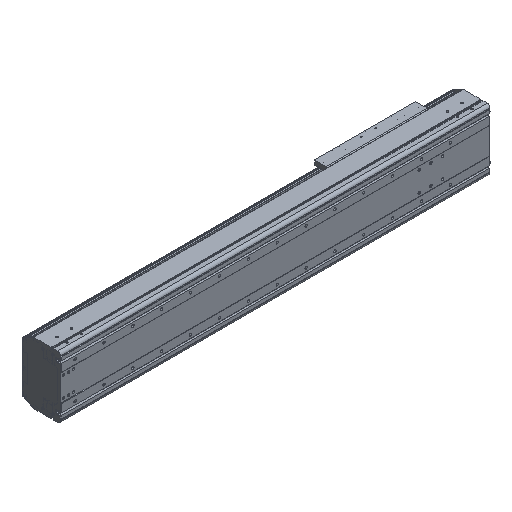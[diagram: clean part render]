
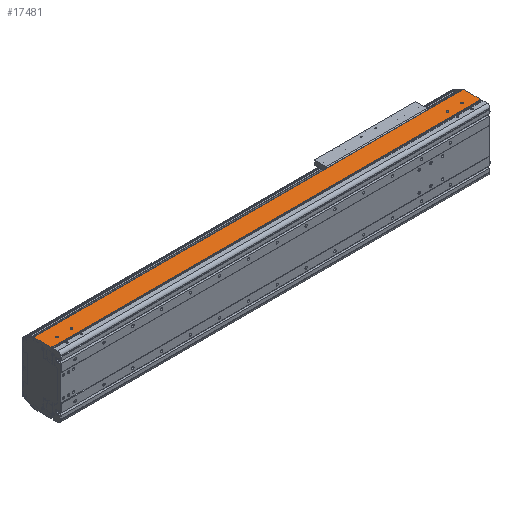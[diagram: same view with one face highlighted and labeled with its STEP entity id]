
A CAD part, isometric view. The second image highlights one B-rep face of the part: STEP entity #17481.
In plain terms, the highlighted planar face has unit normal (0, 0, 1).
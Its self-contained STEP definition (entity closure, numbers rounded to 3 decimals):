
#1922=DIRECTION('',(1.,0.,0.));
#1923=VECTOR('',#1922,2.);
#1924=CARTESIAN_POINT('',(0.,34.65,107.));
#1925=LINE('',#1924,#1923);
#1930=CARTESIAN_POINT('',(-42.,54.,107.));
#1931=DIRECTION('',(0.,0.,-1.));
#1932=DIRECTION('',(1.,0.,0.));
#1933=AXIS2_PLACEMENT_3D('',#1930,#1931,#1932);
#1935=CARTESIAN_POINT('',(-42.,54.,107.));
#1936=DIRECTION('',(0.,0.,-1.));
#1937=DIRECTION('',(-1.,0.,0.));
#1938=AXIS2_PLACEMENT_3D('',#1935,#1936,#1937);
#1940=CARTESIAN_POINT('',(-92.,54.,107.));
#1941=DIRECTION('',(0.,0.,-1.));
#1942=DIRECTION('',(1.,0.,0.));
#1943=AXIS2_PLACEMENT_3D('',#1940,#1941,#1942);
#1945=CARTESIAN_POINT('',(-92.,54.,107.));
#1946=DIRECTION('',(0.,0.,-1.));
#1947=DIRECTION('',(-1.,0.,0.));
#1948=AXIS2_PLACEMENT_3D('',#1945,#1946,#1947);
#1950=CARTESIAN_POINT('',(-1444.,54.,107.));
#1951=DIRECTION('',(0.,0.,-1.));
#1952=DIRECTION('',(1.,0.,0.));
#1953=AXIS2_PLACEMENT_3D('',#1950,#1951,#1952);
#1955=CARTESIAN_POINT('',(-1444.,54.,107.));
#1956=DIRECTION('',(0.,0.,-1.));
#1957=DIRECTION('',(-1.,0.,0.));
#1958=AXIS2_PLACEMENT_3D('',#1955,#1956,#1957);
#1960=CARTESIAN_POINT('',(-1394.,54.,107.));
#1961=DIRECTION('',(0.,0.,-1.));
#1962=DIRECTION('',(1.,0.,0.));
#1963=AXIS2_PLACEMENT_3D('',#1960,#1961,#1962);
#1965=CARTESIAN_POINT('',(-1394.,54.,107.));
#1966=DIRECTION('',(0.,0.,-1.));
#1967=DIRECTION('',(-1.,0.,0.));
#1968=AXIS2_PLACEMENT_3D('',#1965,#1966,#1967);
#1970=DIRECTION('',(0.,-1.,0.));
#1971=VECTOR('',#1970,2.55);
#1972=CARTESIAN_POINT('',(-1484.,34.65,107.));
#1973=LINE('',#1972,#1971);
#1974=DIRECTION('',(0.,-1.,0.));
#1975=VECTOR('',#1974,58.85);
#1976=CARTESIAN_POINT('',(-1486.,93.5,107.));
#1977=LINE('',#1976,#1975);
#1978=DIRECTION('',(0.,1.,0.));
#1979=VECTOR('',#1978,58.85);
#1980=CARTESIAN_POINT('',(2.,34.65,107.));
#1981=LINE('',#1980,#1979);
#1982=DIRECTION('',(0.,1.,0.));
#1983=VECTOR('',#1982,2.55);
#1984=CARTESIAN_POINT('',(0.,32.1,107.));
#1985=LINE('',#1984,#1983);
#2094=DIRECTION('',(1.,0.,0.));
#2095=VECTOR('',#2094,2.);
#2096=CARTESIAN_POINT('',(-1486.,34.65,107.));
#2097=LINE('',#2096,#2095);
#2106=DIRECTION('',(-1.,0.,0.));
#2107=VECTOR('',#2106,1488.);
#2108=CARTESIAN_POINT('',(2.,93.5,107.));
#2109=LINE('',#2108,#2107);
#10560=DIRECTION('',(1.,0.,0.));
#10561=VECTOR('',#10560,1484.);
#10562=CARTESIAN_POINT('',(-1484.,32.1,107.));
#10563=LINE('',#10562,#10561);
#11787=CARTESIAN_POINT('',(-1486.,34.65,107.));
#11788=VERTEX_POINT('',#11787);
#11789=CARTESIAN_POINT('',(-1486.,93.5,107.));
#11790=VERTEX_POINT('',#11789);
#12011=CARTESIAN_POINT('',(-1484.,32.1,107.));
#12012=VERTEX_POINT('',#12011);
#12083=CARTESIAN_POINT('',(0.,32.1,107.));
#12084=VERTEX_POINT('',#12083);
#12501=CARTESIAN_POINT('',(-39.5,54.,107.));
#12502=CARTESIAN_POINT('',(-44.5,54.,107.));
#12503=VERTEX_POINT('',#12501);
#12504=VERTEX_POINT('',#12502);
#12505=CARTESIAN_POINT('',(-89.5,54.,107.));
#12506=CARTESIAN_POINT('',(-94.5,54.,107.));
#12507=VERTEX_POINT('',#12505);
#12508=VERTEX_POINT('',#12506);
#12509=CARTESIAN_POINT('',(-1441.5,54.,107.));
#12510=CARTESIAN_POINT('',(-1446.5,54.,107.));
#12511=VERTEX_POINT('',#12509);
#12512=VERTEX_POINT('',#12510);
#12513=CARTESIAN_POINT('',(-1391.5,54.,107.));
#12514=CARTESIAN_POINT('',(-1396.5,54.,107.));
#12515=VERTEX_POINT('',#12513);
#12516=VERTEX_POINT('',#12514);
#13630=CARTESIAN_POINT('',(2.,34.65,107.));
#13631=VERTEX_POINT('',#13630);
#13632=CARTESIAN_POINT('',(2.,93.5,107.));
#13633=VERTEX_POINT('',#13632);
#13852=CARTESIAN_POINT('',(0.,34.65,107.));
#13853=VERTEX_POINT('',#13852);
#14164=CARTESIAN_POINT('',(-1484.,34.65,107.));
#14165=VERTEX_POINT('',#14164);
#17439=CARTESIAN_POINT('',(-742.,62.8,107.));
#17440=DIRECTION('',(0.,0.,1.));
#17441=DIRECTION('',(0.,-1.,0.));
#17442=AXIS2_PLACEMENT_3D('',#17439,#17440,#17441);
#17443=PLANE('',#17442);
#17444=ORIENTED_EDGE('',*,*,#14955,.F.);
#17446=ORIENTED_EDGE('',*,*,#17445,.F.);
#17447=ORIENTED_EDGE('',*,*,#16038,.F.);
#17449=ORIENTED_EDGE('',*,*,#17448,.F.);
#17450=ORIENTED_EDGE('',*,*,#17237,.F.);
#17451=ORIENTED_EDGE('',*,*,#17432,.F.);
#17452=ORIENTED_EDGE('',*,*,#15562,.F.);
#17454=ORIENTED_EDGE('',*,*,#17453,.F.);
#17455=EDGE_LOOP('',(#17444,#17446,#17447,#17449,#17450,#17451,#17452,#17454));
#17456=FACE_OUTER_BOUND('',#17455,.F.);
#17458=ORIENTED_EDGE('',*,*,#17457,.F.);
#17460=ORIENTED_EDGE('',*,*,#17459,.F.);
#17461=EDGE_LOOP('',(#17458,#17460));
#17462=FACE_BOUND('',#17461,.F.);
#17464=ORIENTED_EDGE('',*,*,#17463,.F.);
#17466=ORIENTED_EDGE('',*,*,#17465,.F.);
#17467=EDGE_LOOP('',(#17464,#17466));
#17468=FACE_BOUND('',#17467,.F.);
#17470=ORIENTED_EDGE('',*,*,#17469,.F.);
#17472=ORIENTED_EDGE('',*,*,#17471,.F.);
#17473=EDGE_LOOP('',(#17470,#17472));
#17474=FACE_BOUND('',#17473,.F.);
#17476=ORIENTED_EDGE('',*,*,#17475,.F.);
#17478=ORIENTED_EDGE('',*,*,#17477,.F.);
#17479=EDGE_LOOP('',(#17476,#17478));
#17480=FACE_BOUND('',#17479,.F.);
#17481=ADVANCED_FACE('',(#17456,#17462,#17468,#17474,#17480),#17443,.T.);
#1934=CIRCLE('',#1933,2.5);
#1939=CIRCLE('',#1938,2.5);
#1944=CIRCLE('',#1943,2.5);
#1949=CIRCLE('',#1948,2.5);
#1954=CIRCLE('',#1953,2.5);
#1959=CIRCLE('',#1958,2.5);
#1964=CIRCLE('',#1963,2.5);
#1969=CIRCLE('',#1968,2.5);
#14955=EDGE_CURVE('',#14165,#12012,#1973,.T.);
#15562=EDGE_CURVE('',#12084,#13853,#1985,.T.);
#16038=EDGE_CURVE('',#11790,#11788,#1977,.T.);
#17237=EDGE_CURVE('',#13631,#13633,#1981,.T.);
#17432=EDGE_CURVE('',#13853,#13631,#1925,.T.);
#17445=EDGE_CURVE('',#11788,#14165,#2097,.T.);
#17448=EDGE_CURVE('',#13633,#11790,#2109,.T.);
#17453=EDGE_CURVE('',#12012,#12084,#10563,.T.);
#17457=EDGE_CURVE('',#12507,#12508,#1944,.T.);
#17459=EDGE_CURVE('',#12508,#12507,#1949,.T.);
#17463=EDGE_CURVE('',#12511,#12512,#1954,.T.);
#17465=EDGE_CURVE('',#12512,#12511,#1959,.T.);
#17469=EDGE_CURVE('',#12515,#12516,#1964,.T.);
#17471=EDGE_CURVE('',#12516,#12515,#1969,.T.);
#17475=EDGE_CURVE('',#12503,#12504,#1934,.T.);
#17477=EDGE_CURVE('',#12504,#12503,#1939,.T.);
